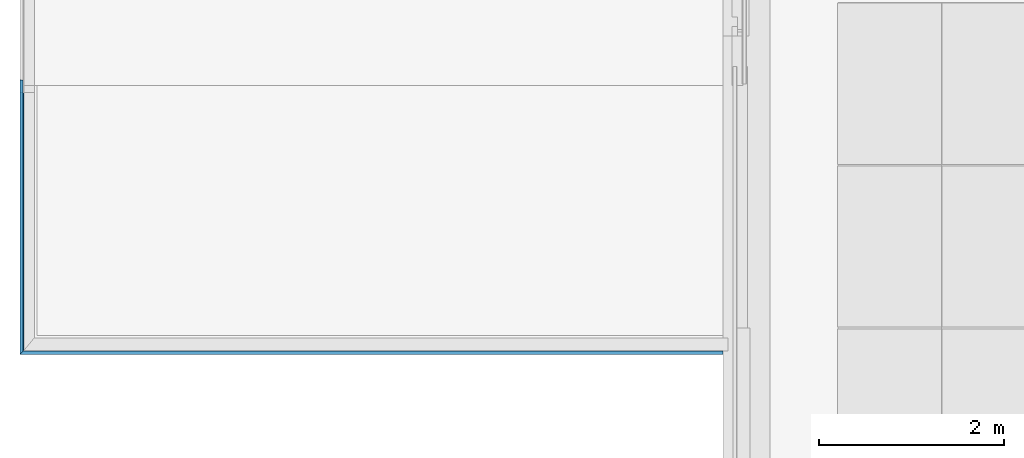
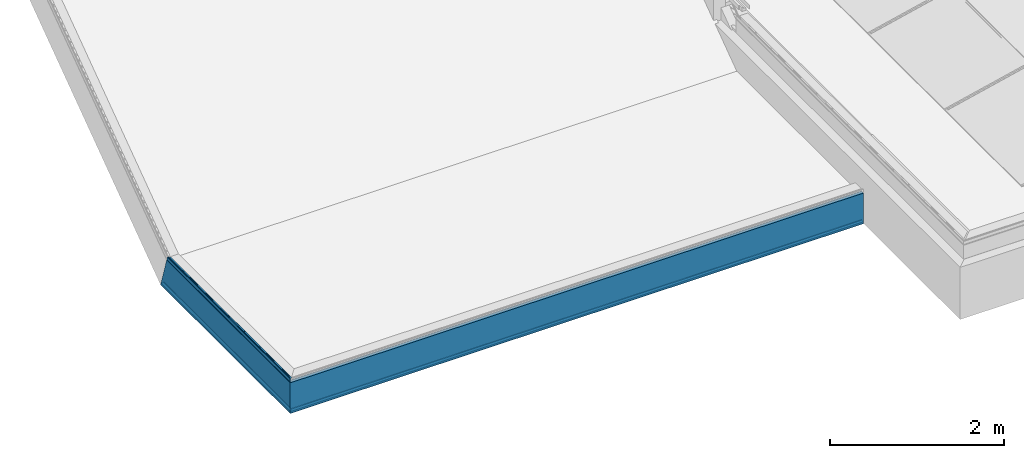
# One storey, part 17 of 63: 5 building element parts, 2 elements without a shape of their own.
"""IFC2X3 building model written with IfcOpenShell, lengths in millimetres."""

from ifc_helpers import new_model, entity, si_unit, converted_unit, derived_unit, money_unit, direction, frame, origin_with_axes, place, context, subcontext, project, spatial, faceted_brep, material, type_object, element, aggregate, save


model = new_model("IFC2X3")

# Units and contexts
model_context = context("Model", 3, precision=0.01, world=origin_with_axes(), true_north=direction((0.0, 1.0)))
body_context = subcontext(model_context, "Body", "Model", "MODEL_VIEW")
ifc_project = project(units=[si_unit("LENGTHUNIT", "METRE", prefix="MILLI"), si_unit("AREAUNIT", "SQUARE_METRE"), si_unit("VOLUMEUNIT", "CUBIC_METRE"), converted_unit("PLANEANGLEUNIT", "DEGREE", entity("IfcPlaneAngleMeasure", 0.0174532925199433), si_unit("PLANEANGLEUNIT", "RADIAN"), dimensions=[0, 0, 0, 0, 0, 0, 0]), money_unit("EUR"), converted_unit("TIMEUNIT", "Year", entity("IfcTimeMeasure", 31557600.0), si_unit("TIMEUNIT", "SECOND"), dimensions=[0, 0, 1, 0, 0, 0, 0]), si_unit("MASSUNIT", "GRAM", prefix="KILO"), si_unit("THERMODYNAMICTEMPERATUREUNIT", "DEGREE_CELSIUS"), si_unit("LUMINOUSINTENSITYUNIT", "LUMEN"), si_unit("ENERGYUNIT", "JOULE", prefix="MEGA"), derived_unit("THERMALCONDUCTANCEUNIT", [(si_unit("POWERUNIT", "WATT"), 1), (si_unit("LENGTHUNIT", "METRE"), -1), (si_unit("THERMODYNAMICTEMPERATUREUNIT", "KELVIN"), -1)]), derived_unit("SPECIFICHEATCAPACITYUNIT", [(si_unit("ENERGYUNIT", "JOULE"), 1), (si_unit("MASSUNIT", "GRAM", prefix="KILO"), -1), (si_unit("THERMODYNAMICTEMPERATUREUNIT", "KELVIN"), -1)]), derived_unit("MASSDENSITYUNIT", [(si_unit("MASSUNIT", "GRAM", prefix="KILO"), 1), (si_unit("VOLUMEUNIT", "CUBIC_METRE"), -1)])], contexts=[model_context])

# Site, building, storey
site_placement = place(None, origin_with_axes())
site = spatial("IfcSite", under=ifc_project, at=site_placement, Name="<site naam>", CompositionType="ELEMENT")
building_placement = place(site_placement, origin_with_axes())
building = spatial("IfcBuilding", under=site, at=building_placement, Name="<Naam gebouw>", CompositionType="ELEMENT")
storey_placement = place(building_placement, frame((0.0, 0.0, 12770.0), z_axis=(0.0, 0.0, 1.0), x_axis=(1.0, 0.0, 0.0)))
storey = spatial("IfcBuildingStorey", under=building, at=storey_placement, Name="04 4e verdieping", CompositionType="ELEMENT", Elevation=12770.0)

# Beam, building element parts
beam_type = type_object("IfcBeamType", Name="Aluminium daktrim (hoofdtrap) 45 x 485", PredefinedType="BEAM")
beam_1_placement = place(storey_placement, frame((3961.493419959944, 1784.999254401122, -523.9999999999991), z_axis=(0.0, 0.0, 1.0), x_axis=(0.0, -1.0, 0.0)))
beam_1 = element("IfcBeam", 1, at=beam_1_placement, inside=storey, type_object=beam_type, Name="47_Balk_Aluminium", ObjectType="BEAM")
ifc_material = material(Name="aluminium")
building_element_part_1_placement = place(beam_1_placement, origin_with_axes())
building_element_part_1 = element("IfcBuildingElementPart", 2, at=building_element_part_1_placement, material=ifc_material, Name="aluminium", context=body_context, shape_type="Brep", body=[
    faceted_brep([(-145.005887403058, 145.0058874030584, 242.1301629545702), (-145.0058874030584, 7703.506582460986, 242.1301629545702), (-111.1979101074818, 7703.506582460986, 237.7678423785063), (-111.1979101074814, 111.1979101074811, 237.7678423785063), (-145.005887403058, 145.0058874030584, 253.0654661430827), (-145.0058874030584, 7703.506582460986, 253.0654661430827), (-143.8058874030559, 7703.506582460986, 253.0654661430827), (-143.8058874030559, 7703.506582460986, 243.4267564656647), (-110.0058874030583, 7703.506582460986, 239.0654661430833), (-110.0058874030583, 7703.506582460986, -190.9343633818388), (-115.2058874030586, 7703.506582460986, -190.9343633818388), (-115.2058874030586, 7703.506582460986, -173.4343633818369), (-114.0058874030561, 7703.506582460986, -173.4343633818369), (-114.0058874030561, 7703.506582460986, -189.7343633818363), (-111.1979101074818, 7703.506582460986, -189.7343633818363), (-111.1979101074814, 111.1979101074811, -189.7343633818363), (-114.0058874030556, 114.0058874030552, -189.7343633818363), (-114.0058874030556, 114.0058874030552, -173.4343633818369), (-115.2058874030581, 115.2058874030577, -173.4343633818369), (-115.2058874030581, 115.2058874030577, -190.9343633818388), (-110.0058874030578, 110.0058874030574, -190.9343633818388), (-110.0058874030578, 110.0058874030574, 239.0654661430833), (-143.8058874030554, 143.8058874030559, 243.4267564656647), (-143.8058874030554, 143.8058874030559, 253.0654661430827)], [[[0, 1, 2, 3]], [[4, 5, 1, 0]], [[2, 1, 5, 6, 7, 8, 9, 10, 11, 12, 13, 14]], [[3, 2, 14, 15]], [[4, 0, 3, 15, 16, 17, 18, 19, 20, 21, 22, 23]], [[23, 6, 5, 4]], [[22, 7, 6, 23]], [[21, 8, 7, 22]], [[20, 9, 8, 21]], [[19, 10, 9, 20]], [[18, 11, 10, 19]], [[17, 12, 11, 18]], [[16, 13, 12, 17]], [[15, 14, 13, 16]]]),
])
building_element_part_2_placement = place(beam_1_placement, origin_with_axes())
building_element_part_2 = element("IfcBuildingElementPart", 3, at=building_element_part_2_placement, material=ifc_material, Name="aluminium", context=body_context, shape_type="Brep", body=[
    faceted_brep([(-112.0058939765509, 7703.506582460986, -185.434369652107), (-112.0058939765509, 7703.506582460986, -165.4343549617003), (-112.0058939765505, 112.00589397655, -165.4343549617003), (-112.0058939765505, 112.00589397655, -185.434369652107), (-113.2058874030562, 7703.506582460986, -185.434369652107), (-113.2058874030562, 7703.506582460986, -166.4412756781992), (-145.0058874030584, 7703.506582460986, -160.8340776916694), (-145.0058874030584, 7703.506582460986, -145.4343549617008), (-143.8058874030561, 7703.506582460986, -145.4343549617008), (-143.8058874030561, 7703.506582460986, -159.8271581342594), (-143.8058874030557, 143.8058874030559, -159.8271581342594), (-143.8058874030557, 143.8058874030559, -145.4343549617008), (-145.005887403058, 145.0058874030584, -145.4343549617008), (-145.005887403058, 145.0058874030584, -160.8340776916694), (-113.2058874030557, 113.2058874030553, -166.4412756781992), (-113.2058874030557, 113.2058874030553, -185.434369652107)], [[[0, 1, 2, 3]], [[0, 4, 5, 6, 7, 8, 9, 1]], [[1, 9, 10, 2]], [[3, 2, 10, 11, 12, 13, 14, 15]], [[4, 0, 3, 15]], [[5, 4, 15, 14]], [[6, 5, 14, 13]], [[7, 6, 13, 12]], [[8, 7, 12, 11]], [[9, 8, 11, 10]]]),
])
aggregate(beam_1, [building_element_part_1, building_element_part_2])

beam_2_placement = place(storey_placement, frame((3961.493419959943, 4807.957217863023, -524.0000000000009), z_axis=(0.0, 0.0, 1.0), x_axis=(-1.0, 0.0, 0.0)))
beam_2 = element("IfcBeam", 4, at=beam_2_placement, inside=storey, type_object=beam_type, Name="47_Balk_Aluminium", ObjectType="BEAM")
building_element_part_3_placement = place(beam_2_placement, origin_with_axes())
building_element_part_3 = element("IfcBuildingElementPart", 5, at=building_element_part_3_placement, material=ifc_material, Name="aluminium", context=body_context, shape_type="Brep", body=[
    faceted_brep([(-121.4991945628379, 2901.458768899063, 294.0656451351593), (-122.2068758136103, 2900.751087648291, 293.7721760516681), (-122.2068758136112, 95.0274021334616, 293.7721760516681), (-121.4991945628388, 95.12233149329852, 294.0656451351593), (-110.9991946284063, 2911.958768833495, 294.0656451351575), (-110.292087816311, 2912.665875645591, 293.7727519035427), (-109.9991945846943, 2912.958768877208, 293.0656450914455), (-109.9991945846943, 2912.958768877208, 250.0656451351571), (-110.292087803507, 2912.665875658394, 249.3585383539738), (-110.999194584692, 2911.95876887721, 249.0656451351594), (-111.4991731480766, 2911.458790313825, 249.1996073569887), (-117.6977781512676, 2905.260185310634, 252.7781690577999), (-117.9774779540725, 2904.98048550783, 253.1426342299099), (-117.917573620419, 2905.040389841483, 253.598132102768), (-117.553150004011, 2905.404813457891, 253.8778860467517), (-117.0976432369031, 2905.860320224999, 253.8180493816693), (-113.8976320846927, 2909.060331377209, 251.9718951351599), (-113.8976320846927, 2909.060331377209, 252.565645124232), (-113.7511854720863, 2909.206777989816, 252.9191985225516), (-113.3976320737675, 2909.560331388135, 253.0656451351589), (-113.1984133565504, 2909.759550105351, 253.0656451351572), (-112.8448599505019, 2910.113103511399, 252.9191985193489), (-112.6984133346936, 2910.259550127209, 252.5656451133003), (-112.6984133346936, 2910.259550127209, 251.278535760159), (-111.9489165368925, 2911.009046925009, 250.8452329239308), (-111.6116899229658, 2911.346273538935, 250.7856033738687), (-111.3150643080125, 2911.642899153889, 250.9567486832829), (-111.1979101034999, 2911.760053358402, 251.278544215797), (-111.1984133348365, 2911.759550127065, 281.0656535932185), (-111.3448629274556, 2911.613100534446, 281.419201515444), (-111.6984133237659, 2911.259550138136, 281.5656451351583), (-112.1984133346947, 2910.759550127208, 281.5656451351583), (-112.5519667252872, 2910.405996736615, 281.4191985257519), (-112.6984133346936, 2910.259550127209, 281.0656451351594), (-112.6984133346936, 2910.259550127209, 279.5656451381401), (-112.8448599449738, 2910.113103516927, 279.212091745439), (-113.1984133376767, 2909.759550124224, 279.065645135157), (-114.9718508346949, 2907.986112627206, 279.0656451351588), (-120.1773366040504, 2902.780626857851, 275.7461395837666), (-120.3116945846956, 2902.646268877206, 275.4250201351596), (-120.5695070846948, 2902.388456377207, 275.3156451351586), (-120.8898195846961, 2902.068143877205, 275.4484576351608), (-121.5401955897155, 2901.417767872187, 275.2060759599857), (-121.6945070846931, 2901.263456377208, 274.8976763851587), (-121.9640383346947, 2900.993925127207, 274.8078326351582), (-122.2726320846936, 2900.685331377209, 274.964082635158), (-128.1981216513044, 2894.759841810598, 274.066030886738), (-154.6486035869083, 2868.309359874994, 274.0656451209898), (-154.8951277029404, 2868.062835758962, 274.1677553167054), (-154.9972414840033, 2867.960721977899, 274.4142779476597), (-154.8947842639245, 2868.063179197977, 274.6611444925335), (-154.6476320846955, 2868.310331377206, 274.7629107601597), (-149.9991945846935, 2872.958768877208, 275.2648638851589), (-149.6984133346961, 2873.259550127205, 275.5656451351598), (-147.2999758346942, 2875.657987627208, 275.5656451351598), (-146.9991945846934, 2875.958768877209, 275.2648638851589), (-143.9991945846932, 2878.958768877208, 275.2648638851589), (-143.6984133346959, 2879.259550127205, 275.5656451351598), (-141.299975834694, 2881.657987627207, 275.5656451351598), (-140.9991945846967, 2881.958768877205, 275.2648638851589), (-137.999194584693, 2884.958768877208, 275.2648638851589), (-137.6984133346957, 2885.259550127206, 275.5656451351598), (-135.2999758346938, 2887.657987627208, 275.5656451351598), (-134.9991945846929, 2887.958768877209, 275.2648638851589), (-131.9991945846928, 2890.958768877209, 275.2648638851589), (-131.6984133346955, 2891.259550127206, 275.5656451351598), (-129.2999758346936, 2893.657987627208, 275.5656451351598), (-128.9991945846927, 2893.958768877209, 275.2648638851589), (-128.1984107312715, 2894.759552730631, 275.2648638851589), (-120.0158638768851, 2902.942099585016, 277.1388822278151), (-113.4645529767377, 2909.493410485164, 282.3873432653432), (-112.6841977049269, 2910.273765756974, 282.7641787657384), (-112.1970030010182, 2910.760960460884, 282.7648658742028), (-111.490808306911, 2911.467155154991, 283.0582564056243), (-111.1984133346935, 2911.759550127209, 283.7648638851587), (-111.1984133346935, 2911.759550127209, 292.3664263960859), (-111.3448599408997, 2911.613103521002, 292.719979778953), (-111.6984133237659, 2911.259550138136, 292.8664263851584), (-120.7999758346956, 2902.157987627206, 292.8664263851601), (-121.1535292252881, 2901.804434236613, 292.7199797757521), (-121.2999758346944, 2901.657987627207, 292.3664263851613), (-121.2999758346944, 2901.657987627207, 290.6652544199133), (-121.4748532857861, 2901.483110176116, 290.2428198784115), (-121.8971453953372, 2901.060818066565, 290.0675987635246), (-122.319722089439, 2900.638241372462, 290.2421324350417), (-122.4952867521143, 2900.462676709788, 290.6642818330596), (-122.4991919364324, 2900.45877152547, 293.0640177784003), (-122.4991919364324, 94.79833196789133, 293.0640177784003), (-122.4952867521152, 94.02208189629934, 290.6642818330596), (-122.3197220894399, 93.88552791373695, 290.2421324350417), (-121.8971453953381, 93.82907096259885, 290.0675987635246), (-121.4748532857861, 93.8857502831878, 290.2428198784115), (-121.2999758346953, 94.02239650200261, 290.6652544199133), (-121.2999758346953, 94.57267990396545, 292.3664263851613), (-121.153529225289, 94.68704492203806, 292.7199797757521), (-120.7999758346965, 94.73441646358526, 292.8664263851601), (-111.6984133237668, 94.73441646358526, 292.8664263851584), (-111.3448599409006, 94.68704492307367, 292.719979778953), (-111.1984133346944, 94.57267990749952, 292.3664263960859), (-111.1984133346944, 91.79030565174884, 283.7648638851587), (-111.490808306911, 91.56173712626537, 283.0582564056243), (-112.1970030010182, 91.46683317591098, 282.7648658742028), (-112.6841977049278, 91.46661091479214, 282.7641787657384), (-113.4645529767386, 91.34471476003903, 282.3873432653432), (-120.015863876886, 89.64697869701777, 277.1388822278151), (-128.1984107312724, 89.04078413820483, 275.2648638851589), (-128.9991945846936, 89.04078413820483, 275.2648638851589), (-129.2999758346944, 89.13807878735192, 275.5656451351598), (-131.6984133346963, 89.13807878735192, 275.5656451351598), (-131.9991945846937, 89.04078413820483, 275.2648638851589), (-134.9991945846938, 89.04078413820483, 275.2648638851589), (-135.2999758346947, 89.13807878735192, 275.5656451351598), (-137.6984133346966, 89.13807878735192, 275.5656451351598), (-137.9991945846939, 89.04078413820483, 275.2648638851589), (-140.9991945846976, 89.04078413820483, 275.2648638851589), (-141.2999758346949, 89.13807878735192, 275.5656451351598), (-143.6984133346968, 89.13807878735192, 275.5656451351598), (-143.9991945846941, 89.04078413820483, 275.2648638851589), (-146.9991945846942, 89.04078413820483, 275.2648638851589), (-147.2999758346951, 89.13807878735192, 275.5656451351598), (-149.698413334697, 89.13807878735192, 275.5656451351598), (-149.9991945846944, 89.04078413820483, 275.2648638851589), (-154.6476320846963, 88.87841579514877, 274.7629107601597), (-154.8947842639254, 88.84549714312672, 274.6611444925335), (-154.9972414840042, 88.76564245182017, 274.4142779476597), (-154.8951277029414, 88.68589900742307, 274.1677553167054), (-154.6486035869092, 88.65286910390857, 274.0656451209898), (-128.1981216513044, 88.65299388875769, 274.066030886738), (-122.2726320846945, 88.9434894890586, 274.964082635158), (-121.9640383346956, 88.89294681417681, 274.8078326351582), (-121.694507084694, 88.92200885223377, 274.8976763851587), (-121.5401955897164, 89.02176782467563, 275.2060759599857), (-120.889819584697, 89.10017178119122, 275.4484576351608), (-120.5695070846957, 89.05721050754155, 275.3156451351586), (-120.3116945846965, 89.09259037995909, 275.4250201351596), (-120.1773366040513, 89.19646388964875, 275.7461395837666), (-114.9718508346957, 90.27023470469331, 279.0656451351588), (-113.1984133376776, 90.27023470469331, 279.065645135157), (-112.8448599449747, 90.31760624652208, 279.212091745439), (-112.6984133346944, 90.4319712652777, 279.5656451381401), (-112.6984133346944, 90.91718094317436, 281.0656451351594), (-112.5519667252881, 91.03154596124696, 281.4191985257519), (-112.1984133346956, 91.07891750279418, 281.5656451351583), (-111.6984133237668, 91.07891750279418, 281.5656451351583), (-111.3448629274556, 91.03154692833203, 281.419201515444), (-111.1984133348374, 90.91718367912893, 281.0656535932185), (-111.1979101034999, 81.28185449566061, 251.278544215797), (-111.3150643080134, 81.17776229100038, 250.9567486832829), (-111.6116899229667, 81.12240138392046, 250.7856033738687), (-111.9489165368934, 81.14168994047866, 250.8452329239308), (-112.6984133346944, 81.28185176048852, 251.278535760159), (-112.6984133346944, 81.6981970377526, 252.5656451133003), (-112.8448599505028, 81.81256206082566, 252.9191985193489), (-113.1984133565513, 81.85993360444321, 253.0656451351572), (-113.3976320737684, 81.85993360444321, 253.0656451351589), (-113.7511854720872, 81.81256206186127, 252.9191985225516), (-113.8976320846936, 81.69819704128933, 252.565645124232), (-113.8976320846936, 81.50613488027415, 251.9718951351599), (-117.0976432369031, 82.10331615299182, 253.8180493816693), (-117.5531500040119, 82.12267170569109, 253.8778860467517), (-117.9175736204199, 82.03217882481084, 253.598132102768), (-117.9774779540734, 81.88483750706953, 253.1426342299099), (-117.6977781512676, 81.76694282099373, 252.7781690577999), (-111.4991731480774, 80.6093743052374, 249.1996073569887), (-110.9991945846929, 80.56604112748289, 249.0656451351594), (-110.2920878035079, 80.66078421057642, 249.3585383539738), (-109.9991945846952, 80.88951424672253, 250.0656451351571), (-109.9991945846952, 94.79885835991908, 293.0656450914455), (-110.2920878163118, 95.0275884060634, 293.7727519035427), (-110.9991946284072, 95.12233149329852, 294.0656451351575)], [[[0, 1, 2, 3]], [[0, 4, 5, 6, 7, 8, 9, 10, 11, 12, 13, 14, 15, 16, 17, 18, 19, 20, 21, 22, 23, 24, 25, 26, 27, 28, 29, 30, 31, 32, 33, 34, 35, 36, 37, 38, 39, 40, 41, 42, 43, 44, 45, 46, 47, 48, 49, 50, 51, 52, 53, 54, 55, 56, 57, 58, 59, 60, 61, 62, 63, 64, 65, 66, 67, 68, 69, 70, 71, 72, 73, 74, 75, 76, 77, 78, 79, 80, 81, 82, 83, 84, 85, 86, 1]], [[1, 86, 87, 2]], [[3, 2, 87, 88, 89, 90, 91, 92, 93, 94, 95, 96, 97, 98, 99, 100, 101, 102, 103, 104, 105, 106, 107, 108, 109, 110, 111, 112, 113, 114, 115, 116, 117, 118, 119, 120, 121, 122, 123, 124, 125, 126, 127, 128, 129, 130, 131, 132, 133, 134, 135, 136, 137, 138, 139, 140, 141, 142, 143, 144, 145, 146, 147, 148, 149, 150, 151, 152, 153, 154, 155, 156, 157, 158, 159, 160, 161, 162, 163, 164, 165, 166, 167, 168, 169]], [[4, 0, 3, 169]], [[5, 4, 169, 168]], [[6, 5, 168, 167]], [[7, 6, 167, 166]], [[8, 7, 166, 165]], [[9, 8, 165, 164]], [[10, 9, 164, 163]], [[11, 10, 163, 162]], [[12, 11, 162, 161]], [[13, 12, 161, 160]], [[14, 13, 160, 159]], [[15, 14, 159, 158]], [[16, 15, 158, 157]], [[17, 16, 157, 156]], [[18, 17, 156, 155]], [[19, 18, 155, 154]], [[20, 19, 154, 153]], [[21, 20, 153, 152]], [[22, 21, 152, 151]], [[23, 22, 151, 150]], [[24, 23, 150, 149]], [[25, 24, 149, 148]], [[26, 25, 148, 147]], [[27, 26, 147, 146]], [[28, 27, 146, 145]], [[29, 28, 145, 144]], [[30, 29, 144, 143]], [[31, 30, 143, 142]], [[32, 31, 142, 141]], [[33, 32, 141, 140]], [[34, 33, 140, 139]], [[35, 34, 139, 138]], [[36, 35, 138, 137]], [[37, 36, 137, 136]], [[38, 37, 136, 135]], [[39, 38, 135, 134]], [[40, 39, 134, 133]], [[41, 40, 133, 132]], [[42, 41, 132, 131]], [[43, 42, 131, 130]], [[44, 43, 130, 129]], [[45, 44, 129, 128]], [[46, 45, 128, 127]], [[47, 46, 127, 126]], [[48, 47, 126, 125]], [[49, 48, 125, 124]], [[50, 49, 124, 123]], [[51, 50, 123, 122]], [[52, 51, 122, 121]], [[53, 52, 121, 120]], [[54, 53, 120, 119]], [[55, 54, 119, 118]], [[56, 55, 118, 117]], [[57, 56, 117, 116]], [[58, 57, 116, 115]], [[59, 58, 115, 114]], [[60, 59, 114, 113]], [[61, 60, 113, 112]], [[62, 61, 112, 111]], [[63, 62, 111, 110]], [[64, 63, 110, 109]], [[65, 64, 109, 108]], [[66, 65, 108, 107]], [[67, 66, 107, 106]], [[68, 67, 106, 105]], [[69, 68, 105, 104]], [[70, 69, 104, 103]], [[71, 70, 103, 102]], [[72, 71, 102, 101]], [[73, 72, 101, 100]], [[74, 73, 100, 99]], [[75, 74, 99, 98]], [[76, 75, 98, 97]], [[77, 76, 97, 96]], [[78, 77, 96, 95]], [[79, 78, 95, 94]], [[80, 79, 94, 93]], [[81, 80, 93, 92]], [[82, 81, 92, 91]], [[83, 82, 91, 90]], [[84, 83, 90, 89]], [[85, 84, 89, 88]], [[86, 85, 88, 87]]]),
])
building_element_part_4_placement = place(beam_2_placement, origin_with_axes())
building_element_part_4 = element("IfcBuildingElementPart", 6, at=building_element_part_4_placement, material=ifc_material, Name="aluminium", context=body_context, shape_type="Brep", body=[
    faceted_brep([(-112.0058939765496, 2910.952069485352, -185.434369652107), (-112.0058939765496, 2910.952069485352, -165.4343549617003), (-112.0058939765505, -53.51356682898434, -165.4343549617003), (-112.0058939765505, -59.983033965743, -185.434369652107), (-113.2058874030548, 2909.752076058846, -185.434369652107), (-113.2058874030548, 2909.752076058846, -166.4412756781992), (-145.0058874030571, 2877.952076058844, -160.8340776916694), (-145.0058874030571, 2877.952076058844, -145.4343549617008), (-143.8058874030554, 2879.152076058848, -145.4343549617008), (-143.8058874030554, 2879.152076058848, -159.8271581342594), (-143.8058874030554, -51.6997893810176, -159.8271581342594), (-143.8058874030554, -47.0441044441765, -145.4343549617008), (-145.005887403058, -47.0441044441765, -145.4343549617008), (-145.005887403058, -52.0255007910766, -160.8340776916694), (-113.2058874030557, -53.83927861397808, -166.4412756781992), (-113.2058874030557, -59.983033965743, -185.434369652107)], [[[0, 1, 2, 3]], [[0, 4, 5, 6, 7, 8, 9, 1]], [[1, 9, 10, 2]], [[3, 2, 10, 11, 12, 13, 14, 15]], [[4, 0, 3, 15]], [[5, 4, 15, 14]], [[6, 5, 14, 13]], [[7, 6, 13, 12]], [[8, 7, 12, 11]], [[9, 8, 11, 10]]]),
])
building_element_part_5_placement = place(beam_2_placement, origin_with_axes())
building_element_part_5 = element("IfcBuildingElementPart", 7, at=building_element_part_5_placement, material=ifc_material, Name="aluminium", context=body_context, shape_type="Brep", body=[
    faceted_brep([(-145.0058874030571, 2877.952076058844, 242.1301629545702), (-111.1979101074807, 2911.760053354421, 237.7678423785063), (-111.1979101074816, 76.91150562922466, 237.7678423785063), (-145.005887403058, 78.32259907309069, 242.1301629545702), (-145.0058874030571, 2877.952076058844, 253.0654661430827), (-143.8058874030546, 2879.152076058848, 253.0654661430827), (-143.8058874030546, 2879.152076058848, 243.4267564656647), (-110.0058874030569, 2912.952076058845, 239.0654661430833), (-110.0058874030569, 2912.952076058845, -190.9343633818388), (-115.2058874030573, 2907.752076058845, -190.9343633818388), (-115.2058874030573, 2907.752076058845, -173.4343633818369), (-114.0058874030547, 2908.952076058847, -173.4343633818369), (-114.0058874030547, 2908.952076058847, -189.7343633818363), (-111.1979101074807, 2911.760053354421, -189.7343633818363), (-111.1979101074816, -61.37396635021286, -189.7343633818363), (-114.0058874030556, -61.37396635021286, -189.7343633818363), (-114.0058874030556, -56.1013545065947, -173.4343633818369), (-115.2058874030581, -56.1013545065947, -173.4343633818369), (-115.2058874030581, -61.76213409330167, -190.9343633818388), (-110.0058874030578, -61.76213409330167, -190.9343633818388), (-110.0058874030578, 77.33125203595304, 239.0654661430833), (-143.8058874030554, 78.74201222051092, 243.4267564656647), (-143.8058874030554, 81.85987570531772, 253.0654661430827), (-145.005887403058, 81.85987570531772, 253.0654661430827)], [[[0, 1, 2, 3]], [[0, 4, 5, 6, 7, 8, 9, 10, 11, 12, 13, 1]], [[1, 13, 14, 2]], [[3, 2, 14, 15, 16, 17, 18, 19, 20, 21, 22, 23]], [[4, 0, 3, 23]], [[5, 4, 23, 22]], [[6, 5, 22, 21]], [[7, 6, 21, 20]], [[8, 7, 20, 19]], [[9, 8, 19, 18]], [[10, 9, 18, 17]], [[11, 10, 17, 16]], [[12, 11, 16, 15]], [[13, 12, 15, 14]]]),
])
aggregate(beam_2, [building_element_part_3, building_element_part_4, building_element_part_5])

save(model, "model.ifc")
